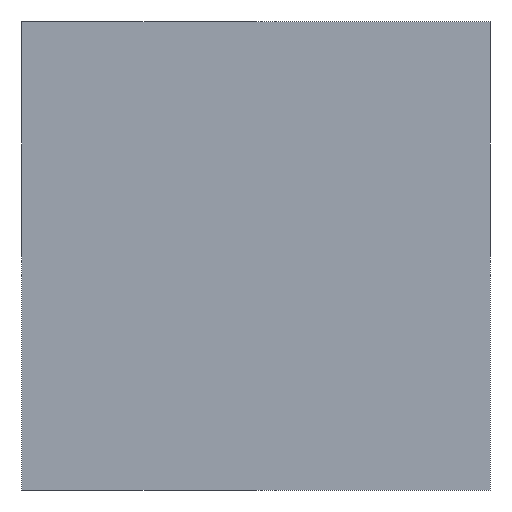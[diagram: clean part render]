
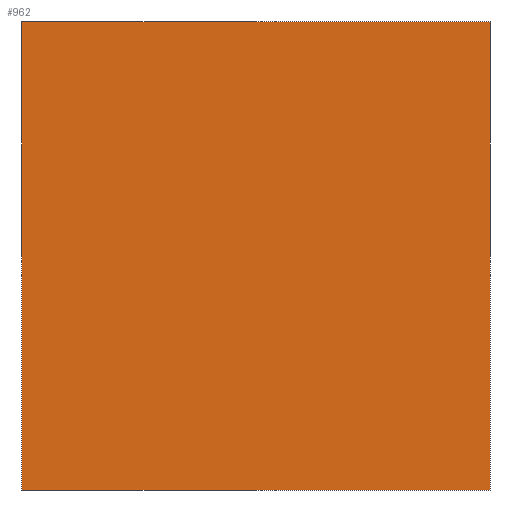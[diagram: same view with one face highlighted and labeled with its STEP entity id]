
A CAD part, front view. The second image highlights one B-rep face of the part: STEP entity #962.
In plain terms, the highlighted planar face has unit normal (0, -1, 0).
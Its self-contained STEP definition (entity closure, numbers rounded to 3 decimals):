
#5 = VECTOR ( 'NONE', #1281, 1000. ) ;
#12 = PLANE ( 'NONE',  #1028 ) ;
#14 = CARTESIAN_POINT ( 'NONE',  ( -30., -170., 30. ) ) ;
#61 = LINE ( 'NONE', #154, #378 ) ;
#86 = CARTESIAN_POINT ( 'NONE',  ( -30., -170., 30. ) ) ;
#102 = EDGE_CURVE ( 'NONE', #926, #791, #1083, .T. ) ;
#127 = FACE_OUTER_BOUND ( 'NONE', #333, .T. ) ;
#146 = DIRECTION ( 'NONE',  ( -1., 0., 0. ) ) ;
#154 = CARTESIAN_POINT ( 'NONE',  ( -30., -170., 30. ) ) ;
#257 = EDGE_CURVE ( 'NONE', #838, #770, #61, .T. ) ;
#333 = EDGE_LOOP ( 'NONE', ( #779, #689, #932, #1226 ) ) ;
#350 = LINE ( 'NONE', #14, #1238 ) ;
#378 = VECTOR ( 'NONE', #900, 1000. ) ;
#473 = CARTESIAN_POINT ( 'NONE',  ( 30., -170., 30. ) ) ;
#503 = EDGE_CURVE ( 'NONE', #770, #926, #350, .T. ) ;
#506 = CARTESIAN_POINT ( 'NONE',  ( 30., -170., -30. ) ) ;
#537 = CARTESIAN_POINT ( 'NONE',  ( 30., -170., 30. ) ) ;
#601 = VECTOR ( 'NONE', #146, 1000. ) ;
#670 = CARTESIAN_POINT ( 'NONE',  ( -30., -170., -30. ) ) ;
#673 = DIRECTION ( 'NONE',  ( 0., -1., 0. ) ) ;
#689 = ORIENTED_EDGE ( 'NONE', *, *, #503, .F. ) ;
#770 = VERTEX_POINT ( 'NONE', #86 ) ;
#779 = ORIENTED_EDGE ( 'NONE', *, *, #102, .F. ) ;
#781 = CARTESIAN_POINT ( 'NONE',  ( 0., -170., 0. ) ) ;
#791 = VERTEX_POINT ( 'NONE', #506 ) ;
#838 = VERTEX_POINT ( 'NONE', #1073 ) ;
#888 = DIRECTION ( 'NONE',  ( 0., 0., -1. ) ) ;
#900 = DIRECTION ( 'NONE',  ( 0., 0., 1. ) ) ;
#926 = VERTEX_POINT ( 'NONE', #473 ) ;
#932 = ORIENTED_EDGE ( 'NONE', *, *, #257, .F. ) ;
#962 = ADVANCED_FACE ( 'NONE', ( #127 ), #12, .T. ) ;
#1015 = LINE ( 'NONE', #670, #601 ) ;
#1028 = AXIS2_PLACEMENT_3D ( 'NONE', #781, #673, #888 ) ;
#1073 = CARTESIAN_POINT ( 'NONE',  ( -30., -170., -30. ) ) ;
#1083 = LINE ( 'NONE', #537, #5 ) ;
#1156 = EDGE_CURVE ( 'NONE', #791, #838, #1015, .T. ) ;
#1190 = DIRECTION ( 'NONE',  ( 1., 0., 0. ) ) ;
#1226 = ORIENTED_EDGE ( 'NONE', *, *, #1156, .F. ) ;
#1238 = VECTOR ( 'NONE', #1190, 1000. ) ;
#1281 = DIRECTION ( 'NONE',  ( 0., 0., -1. ) ) ;
